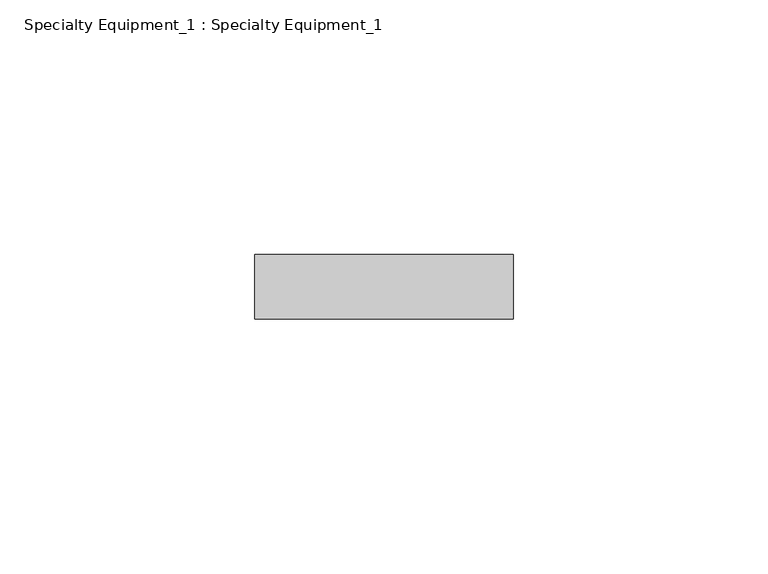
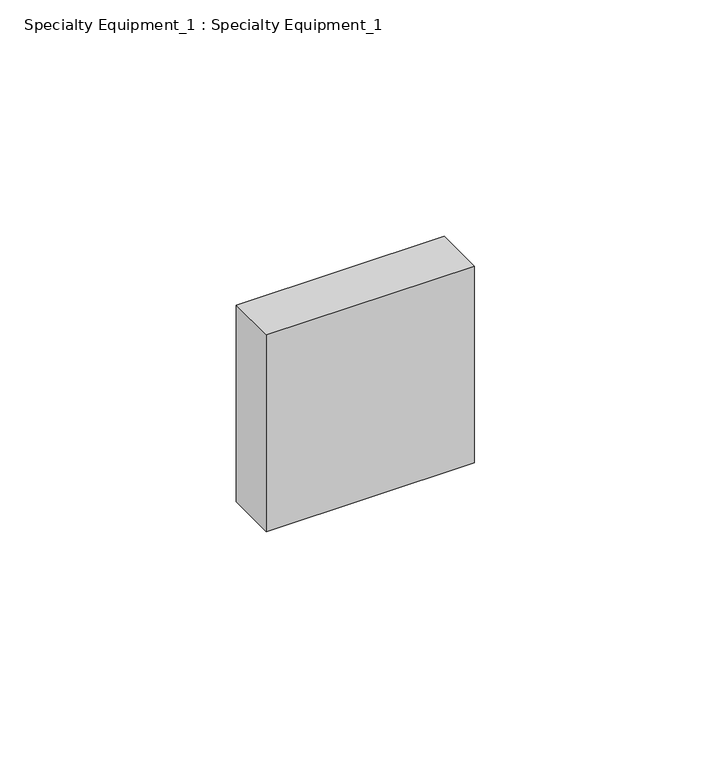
"""IFC4 building model written with IfcOpenShell, lengths in millimetres: proxy geometry, Specialty Equipment_1 : Specialty Equipment_1."""

from ifc_helpers import new_model, si_unit, origin, origin_with_axes, place, context, project, spatial, polyline, outline, extrude, source, transform, mapped, element, save


def specialty_equipment_1_specialty_equipment_1_6d52e2c9(model_context):
    return source(origin(), model_context, "Body", "SweptSolid", [
        extrude(outline(polyline([(25.4, 0.0), (25.4, -12.7), (-25.4, -12.7), (-25.4, 0.0), (25.4, 0.0)])), origin_with_axes(), (0.0, 0.0, 1.0), 50.8),
    ])


if __name__ == "__main__":
    model = new_model("IFC4")
    model_context = context("Model", 3, world=origin())
    ifc_project = project(units=[si_unit("LENGTHUNIT", "METRE", prefix="MILLI")], contexts=[model_context])
    site = spatial("IfcSite", under=ifc_project)
    building = spatial("IfcBuilding", under=site)
    placement = place(None, origin())
    specialty_equipment_1_specialty_equipment_1_shape = specialty_equipment_1_specialty_equipment_1_6d52e2c9(model_context)
    element("IfcBuildingElementProxy", 1, Name="Specialty Equipment_1 : Specialty Equipment_1", ObjectType="Specialty Equipment_1 : Specialty Equipment_1", at=placement, inside=building, context=model_context, shape_type="MappedRepresentation", body=[
        mapped(specialty_equipment_1_specialty_equipment_1_shape, transform((0.0, 0.0, 0.0), x_axis=(1.0, 0.0, 0.0), y_axis=(0.0, 1.0, 0.0), z_axis=(0.0, 0.0, 1.0))),
    ])
    save(model, "model.ifc")
